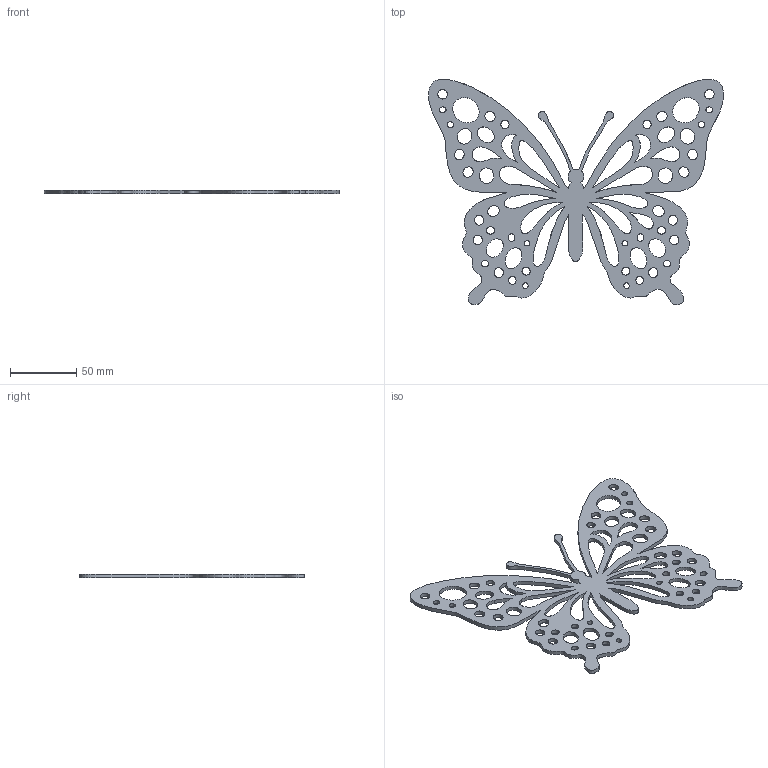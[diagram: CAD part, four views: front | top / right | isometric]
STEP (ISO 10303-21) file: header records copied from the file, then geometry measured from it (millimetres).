
FILE_DESCRIPTION(('STEP AP214'),'1');
FILE_NAME('4.stp','2026-06-27T09:36:30',(' '),(' '),'Spatial InterOp 3D',' ',' ');
FILE_SCHEMA(('AUTOMOTIVE_DESIGN { 1 0 10303 214 1 1 1 1 }'));
Length unit declared in the file: metre
Products named in the file (1): 1782562497
Bounding box: 223.28 x 170.36 x 3 mm (x, y, z)
Volume: 45468.5 mm3; surface area: 42000.1 mm2
Topology: 1 solids, 1 shells, 92 faces, 270 edges, 180 vertices
Faces by surface type: extrusion 88, cylinder 2, plane 2
Entity records: 5738 total; most frequent: CARTESIAN_POINT 2967, ORIENTED_EDGE 444, EDGE_LOOP 266, EDGE_CURVE 222, VERTEX_POINT 180, DIRECTION 148, FACE_OUTER_BOUND 140, VECTOR 130
